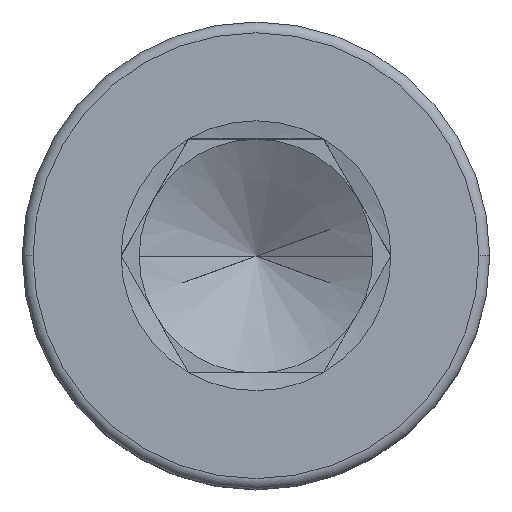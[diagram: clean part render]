
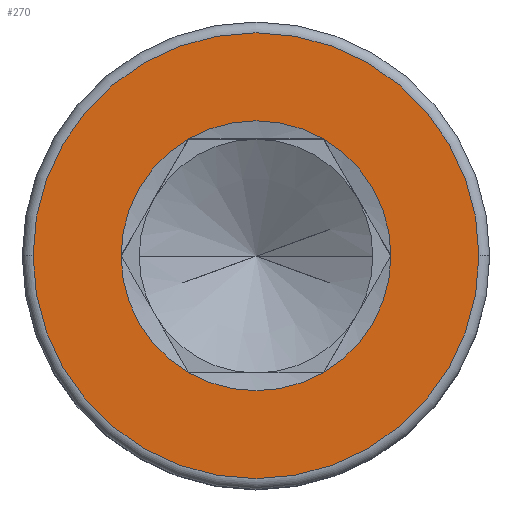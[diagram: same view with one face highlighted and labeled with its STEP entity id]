
A CAD part, top view. The second image highlights one B-rep face of the part: STEP entity #270.
In plain terms, the highlighted planar face has unit normal (0, 0, 1).
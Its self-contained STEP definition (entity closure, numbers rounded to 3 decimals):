
#19 = CARTESIAN_POINT ( 'NONE',  ( -4.619, 0., 10. ) ) ;
#43 = CARTESIAN_POINT ( 'NONE',  ( -2.309, 4., 10. ) ) ;
#48 = EDGE_LOOP ( 'NONE', ( #541, #1338 ) ) ;
#79 = EDGE_CURVE ( 'NONE', #1706, #1605, #885, .T. ) ;
#147 = DIRECTION ( 'NONE',  ( 1., 0., 0. ) ) ;
#166 = EDGE_LOOP ( 'NONE', ( #1241, #871, #1345, #747, #1446, #214 ) ) ;
#169 = CIRCLE ( 'NONE', #562, 4.619 ) ;
#214 = ORIENTED_EDGE ( 'NONE', *, *, #1795, .F. ) ;
#257 = CIRCLE ( 'NONE', #1296, 7.63 ) ;
#262 = EDGE_CURVE ( 'NONE', #1398, #862, #1528, .T. ) ;
#270 = ADVANCED_FACE ( 'NONE', ( #417, #1103 ), #823, .T. ) ;
#277 = CARTESIAN_POINT ( 'NONE',  ( 0., 0., 10. ) ) ;
#325 = CARTESIAN_POINT ( 'NONE',  ( 2.309, -4., 10. ) ) ;
#354 = AXIS2_PLACEMENT_3D ( 'NONE', #1644, #1363, #1350 ) ;
#417 = FACE_OUTER_BOUND ( 'NONE', #48, .T. ) ;
#418 = CARTESIAN_POINT ( 'NONE',  ( 2.309, 4., 10. ) ) ;
#427 = DIRECTION ( 'NONE',  ( 0., 0., 1. ) ) ;
#457 = DIRECTION ( 'NONE',  ( 1., 0., 0. ) ) ;
#508 = EDGE_CURVE ( 'NONE', #1152, #1706, #169, .T. ) ;
#541 = ORIENTED_EDGE ( 'NONE', *, *, #963, .T. ) ;
#545 = CARTESIAN_POINT ( 'NONE',  ( 0., 0., 10. ) ) ;
#562 = AXIS2_PLACEMENT_3D ( 'NONE', #753, #1189, #604 ) ;
#604 = DIRECTION ( 'NONE',  ( 1., 0., 0. ) ) ;
#633 = VERTEX_POINT ( 'NONE', #1740 ) ;
#747 = ORIENTED_EDGE ( 'NONE', *, *, #79, .F. ) ;
#753 = CARTESIAN_POINT ( 'NONE',  ( 0., 0., 10. ) ) ;
#793 = AXIS2_PLACEMENT_3D ( 'NONE', #1396, #1785, #147 ) ;
#798 = AXIS2_PLACEMENT_3D ( 'NONE', #1435, #1276, #457 ) ;
#821 = CIRCLE ( 'NONE', #354, 4.619 ) ;
#823 = PLANE ( 'NONE',  #1324 ) ;
#862 = VERTEX_POINT ( 'NONE', #1683 ) ;
#871 = ORIENTED_EDGE ( 'NONE', *, *, #262, .F. ) ;
#885 = CIRCLE ( 'NONE', #798, 4.619 ) ;
#920 = AXIS2_PLACEMENT_3D ( 'NONE', #1309, #1489, #1172 ) ;
#951 = DIRECTION ( 'NONE',  ( 0., 0., 1. ) ) ;
#963 = EDGE_CURVE ( 'NONE', #1374, #633, #257, .T. ) ;
#1103 = FACE_BOUND ( 'NONE', #166, .T. ) ;
#1130 = DIRECTION ( 'NONE',  ( 1., 0., 0. ) ) ;
#1147 = CARTESIAN_POINT ( 'NONE',  ( 0., 0., 10. ) ) ;
#1152 = VERTEX_POINT ( 'NONE', #43 ) ;
#1157 = DIRECTION ( 'NONE',  ( 1., 0., 0. ) ) ;
#1172 = DIRECTION ( 'NONE',  ( 1., 0., 0. ) ) ;
#1189 = DIRECTION ( 'NONE',  ( 0., 0., 1. ) ) ;
#1230 = AXIS2_PLACEMENT_3D ( 'NONE', #1147, #1688, #1157 ) ;
#1237 = DIRECTION ( 'NONE',  ( 1., 0., 0. ) ) ;
#1241 = ORIENTED_EDGE ( 'NONE', *, *, #1599, .F. ) ;
#1276 = DIRECTION ( 'NONE',  ( 0., 0., 1. ) ) ;
#1296 = AXIS2_PLACEMENT_3D ( 'NONE', #1495, #951, #1357 ) ;
#1309 = CARTESIAN_POINT ( 'NONE',  ( 0., 0., 10. ) ) ;
#1324 = AXIS2_PLACEMENT_3D ( 'NONE', #277, #1655, #1237 ) ;
#1338 = ORIENTED_EDGE ( 'NONE', *, *, #1626, .T. ) ;
#1345 = ORIENTED_EDGE ( 'NONE', *, *, #1468, .F. ) ;
#1350 = DIRECTION ( 'NONE',  ( 1., 0., 0. ) ) ;
#1357 = DIRECTION ( 'NONE',  ( 1., 0., 0. ) ) ;
#1363 = DIRECTION ( 'NONE',  ( 0., 0., 1. ) ) ;
#1373 = CIRCLE ( 'NONE', #1230, 4.619 ) ;
#1374 = VERTEX_POINT ( 'NONE', #1600 ) ;
#1396 = CARTESIAN_POINT ( 'NONE',  ( 0., 0., 10. ) ) ;
#1398 = VERTEX_POINT ( 'NONE', #325 ) ;
#1433 = CIRCLE ( 'NONE', #1724, 7.63 ) ;
#1435 = CARTESIAN_POINT ( 'NONE',  ( 0., 0., 10. ) ) ;
#1446 = ORIENTED_EDGE ( 'NONE', *, *, #508, .F. ) ;
#1468 = EDGE_CURVE ( 'NONE', #1605, #1398, #821, .T. ) ;
#1489 = DIRECTION ( 'NONE',  ( 0., 0., 1. ) ) ;
#1495 = CARTESIAN_POINT ( 'NONE',  ( 0., 0., 10. ) ) ;
#1528 = CIRCLE ( 'NONE', #920, 4.619 ) ;
#1577 = CIRCLE ( 'NONE', #793, 4.619 ) ;
#1599 = EDGE_CURVE ( 'NONE', #862, #1743, #1577, .T. ) ;
#1600 = CARTESIAN_POINT ( 'NONE',  ( 7.63, 0., 10. ) ) ;
#1605 = VERTEX_POINT ( 'NONE', #1656 ) ;
#1626 = EDGE_CURVE ( 'NONE', #633, #1374, #1433, .T. ) ;
#1644 = CARTESIAN_POINT ( 'NONE',  ( 0., 0., 10. ) ) ;
#1655 = DIRECTION ( 'NONE',  ( 0., 0., 1. ) ) ;
#1656 = CARTESIAN_POINT ( 'NONE',  ( -2.309, -4., 10. ) ) ;
#1683 = CARTESIAN_POINT ( 'NONE',  ( 4.619, 0., 10. ) ) ;
#1688 = DIRECTION ( 'NONE',  ( 0., 0., 1. ) ) ;
#1706 = VERTEX_POINT ( 'NONE', #19 ) ;
#1724 = AXIS2_PLACEMENT_3D ( 'NONE', #545, #427, #1130 ) ;
#1740 = CARTESIAN_POINT ( 'NONE',  ( -7.63, 0., 10. ) ) ;
#1743 = VERTEX_POINT ( 'NONE', #418 ) ;
#1785 = DIRECTION ( 'NONE',  ( 0., 0., 1. ) ) ;
#1795 = EDGE_CURVE ( 'NONE', #1743, #1152, #1373, .T. ) ;
